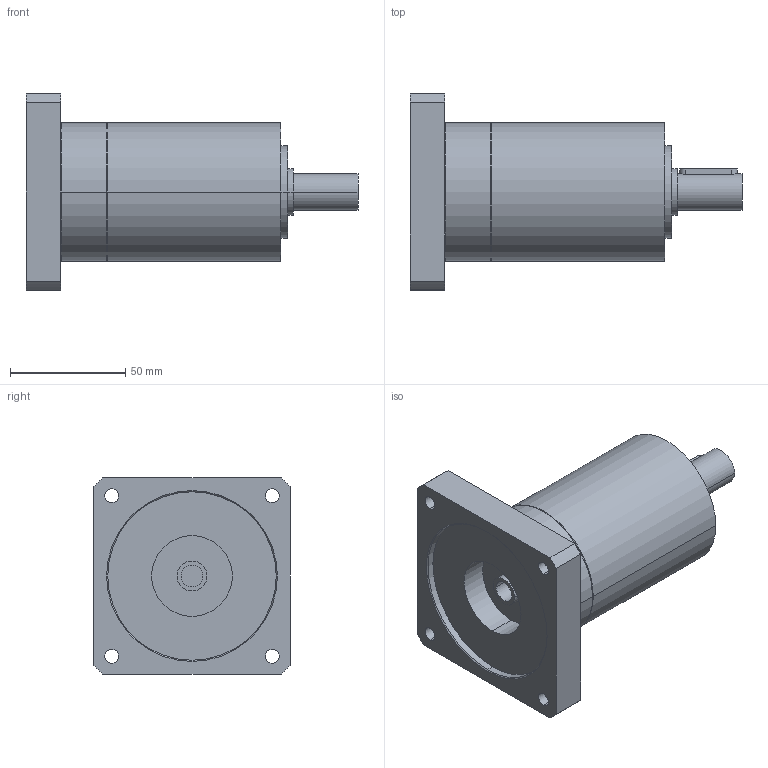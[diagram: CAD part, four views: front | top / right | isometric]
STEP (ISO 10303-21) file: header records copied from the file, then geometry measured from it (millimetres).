
FILE_DESCRIPTION(('CoCreate Modeling STEP Export'),'2;1');
FILE_NAME('GPR75_ig-9-12-16-20-24-30-36_16_B14_9.52_P36.stp','2014-08-25T16:07:06',(''),(''),'CoCreate Modeling STEP processor for AP214 (Solid Model)','CoCreate Modeling 16.00C 25-Feb-2009 (C) Parametric Technology GmbH','');
FILE_SCHEMA(('AUTOMOTIVE_DESIGN { 1 0 10303 214 1 1 1 1 }'));
Length unit declared in the file: millimetre
Products named in the file (2): GPR75_ig-9-12-16-20-24-30-36_16_B14_9.52_P36
Assembly tree (1 placements, depth 2):
  GPR75_ig-9-12-16-20-24-30-36_16_B14_9.52_P36
    GPR75_ig-9-12-16-20-24-30-36_16_B14_9.52_P36
Bounding box: 143.9 x 85 x 85 mm (x, y, z)
Volume: 358913 mm3; surface area: 44047.8 mm2
Topology: 1 solids, 1 shells, 72 faces, 187 edges, 129 vertices
Faces by surface type: cylinder 42, plane 22, cone 8
Entity records: 1954 total; most frequent: ORIENTED_EDGE 370, CARTESIAN_POINT 361, DIRECTION 268, EDGE_CURVE 185, VERTEX_POINT 129, AXIS2_PLACEMENT_3D 100, EDGE_LOOP 94, FACE_OUTER_BOUND 72
